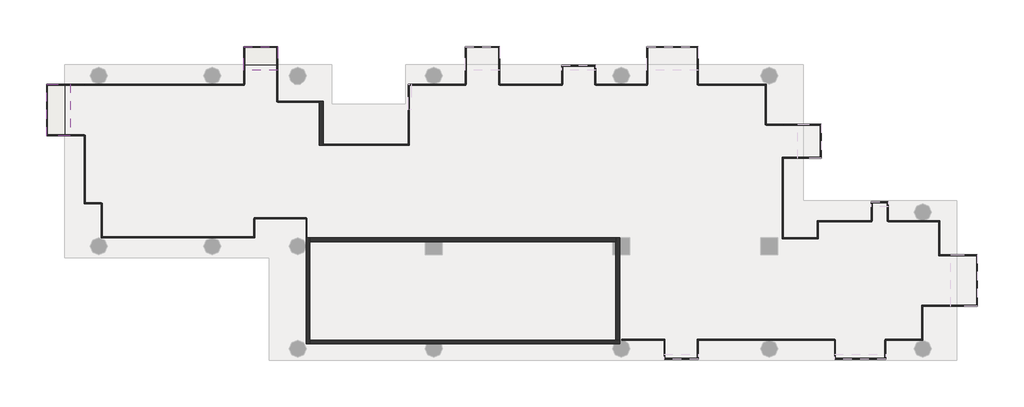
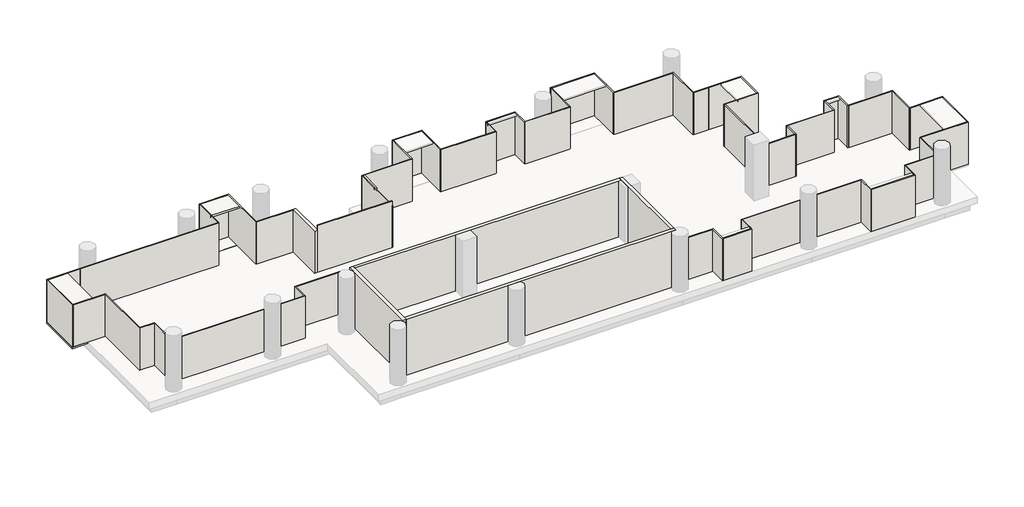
# One storey, part 1 of 2: 62 walls, 4 slabs.
"""IFC4 building model written with IfcOpenShell, lengths in millimetres."""

import ifcopenshell
import ifcopenshell.guid

model = None  # the IFC model being written
_history = None  # IfcOwnerHistory: only IFC2X3 demands one
_inside = {}  # id of a spatial element -> (the spatial element, [elements in it])
_under = {}  # id of a project, library or spatial element -> (it, [spatial elements below it])
_declared = {}  # id of a project -> (the project, [libraries it declares])
_typed = {}  # id of a type object -> (the type object, [elements of that type])
_made_of = {}  # id of a material, layer set ... -> (it, [elements and type objects made of it])


def new_model(schema):
    """Start an empty IFC model of exactly this schema.

    Asked for "IFC4X3", IfcOpenShell would pick the latest addendum, in which some entities
    have other attributes; the version numbers below select the first issue.
    IFC2X3 requires an IfcOwnerHistory on every rooted entity: one is made here for all.
    """
    global model, _history
    if schema == "IFC4X3":
        model = ifcopenshell.file(schema_version=(4, 3, 0, 0))
    else:
        model = ifcopenshell.file(schema=schema)
    _inside.clear()
    _under.clear()
    _declared.clear()
    _typed.clear()
    _made_of.clear()
    _history = None
    if model.schema == "IFC2X3":
        org = make("IfcOrganization", Name="unknown")
        user = make(
            "IfcPersonAndOrganization",
            ThePerson=make("IfcPerson", FamilyName="unknown"),
            TheOrganization=org,
        )
        app = make(
            "IfcApplication",
            ApplicationDeveloper=org,
            Version="unknown",
            ApplicationFullName="unknown",
            ApplicationIdentifier="unknown",
        )
        _history = make(
            "IfcOwnerHistory",
            OwningUser=user,
            OwningApplication=app,
            ChangeAction="ADDED",
            CreationDate=0,
        )
    return model


def make(cls, **values):
    """One entity of the class cls with the attributes given. An attribute that is None is left unset."""
    return model.create_entity(
        cls, **{name: value for name, value in values.items() if value is not None}
    )


def rooted(cls, **values):
    """An entity with a GlobalId (a new one), such as an element, a storey or a relation."""
    return make(cls, GlobalId=ifcopenshell.guid.new(), OwnerHistory=_history, **values)


def si_unit(unit_type, name, prefix=None):
    """IfcSIUnit, for example si_unit("LENGTHUNIT", "METRE", prefix="MILLI")."""
    return make("IfcSIUnit", UnitType=unit_type, Prefix=prefix, Name=name)


def assignment(units):
    """IfcUnitAssignment: the units of a project."""
    return None if units is None else make("IfcUnitAssignment", Units=units)


def point(xyz):
    """IfcCartesianPoint."""
    return None if xyz is None else make("IfcCartesianPoint", Coordinates=xyz)


def direction(xyz):
    """IfcDirection."""
    return None if xyz is None else make("IfcDirection", DirectionRatios=xyz)


def frame(location, z_axis=None, x_axis=None):
    """IfcAxis2Placement3D, a coordinate frame: its origin and axes. An axis left out is left unset."""
    return make(
        "IfcAxis2Placement3D",
        Location=point(location),
        Axis=direction(z_axis),
        RefDirection=direction(x_axis),
    )


def origin():
    """The frame at (0, 0, 0) with its axes left unset."""
    return frame((0.0, 0.0, 0.0))


def place(relative_to, where):
    """IfcLocalPlacement: puts the frame where relative to a parent placement (None: the world)."""
    return make(
        "IfcLocalPlacement", PlacementRelTo=relative_to, RelativePlacement=where
    )


def context(
    kind, dimensions, precision=None, world=None, true_north=None, identifier=None
):
    """IfcGeometricRepresentationContext, for example the 3D "Model" context."""
    return make(
        "IfcGeometricRepresentationContext",
        ContextIdentifier=identifier,
        ContextType=kind,
        CoordinateSpaceDimension=dimensions,
        Precision=precision,
        WorldCoordinateSystem=world,
        TrueNorth=true_north,
    )


def project(units=None, contexts=None):
    """IfcProject with its units and contexts."""
    return rooted(
        "IfcProject",
        Name="project",
        RepresentationContexts=contexts,
        UnitsInContext=assignment(units),
    )


def spatial(cls, under=None, at=None, **own):
    """A site, building, storey or space (cls), placed at a placement, below another one or the project."""
    s = rooted(cls, ObjectPlacement=at, **own)
    if under is not None:
        _under.setdefault(under.id(), (under, []))[1].append(s)
    return s


def polyline(points):
    """IfcPolyline through the points."""
    return make("IfcPolyline", Points=[point(p) for p in points])


def outline(outer, holes=None, kind="AREA"):
    """IfcArbitraryClosedProfileDef: a profile drawn as a closed curve; with holes, ...WithVoids."""
    if holes is None:
        return make("IfcArbitraryClosedProfileDef", ProfileType=kind, OuterCurve=outer)
    return make(
        "IfcArbitraryProfileDefWithVoids",
        ProfileType=kind,
        OuterCurve=outer,
        InnerCurves=holes,
    )


def extrude(swept, where, along, depth):
    """IfcExtrudedAreaSolid: the profile swept, set in the frame where, extruded along a direction by depth."""
    return make(
        "IfcExtrudedAreaSolid",
        SweptArea=swept,
        Position=where,
        ExtrudedDirection=direction(along),
        Depth=depth,
    )


def faces_of(points, faces, orient=None, outer=None):
    """IfcFace entities. A face is a list of loops; a loop is a list of indices into points, from 0.

    orient and outer hold one flag for each loop. By default every Orientation is true, the
    first loop of a face is its IfcFaceOuterBound and the others are IfcFaceBound.
    """
    made = []
    for i, loops in enumerate(faces):
        bounds = []
        for j, loop in enumerate(loops):
            is_outer = j == 0 if outer is None else outer[i][j]
            bounds.append(
                make(
                    "IfcFaceOuterBound" if is_outer else "IfcFaceBound",
                    Bound=make("IfcPolyLoop", Polygon=[points[k] for k in loop]),
                    Orientation=True if orient is None else orient[i][j],
                )
            )
        made.append(make("IfcFace", Bounds=bounds))
    return made


def faceted_brep(points, faces, orient=None, outer=None, voids=None):
    """IfcFacetedBrep: a solid bounded by flat faces; with voids (closed shells), ...WithVoids."""
    shared = [point(p) for p in points]
    hull = make("IfcClosedShell", CfsFaces=faces_of(shared, faces, orient, outer))
    if voids is None:
        return make("IfcFacetedBrep", Outer=hull)
    return make(
        "IfcFacetedBrepWithVoids",
        Outer=hull,
        Voids=[
            make(cls, CfsFaces=faces_of(shared, fs, o, b)) for cls, fs, o, b in voids
        ],
    )


def shape(context_of_items, identifier, shape_type, items):
    """IfcShapeRepresentation: the items that make up one representation, for example the "Body"."""
    return make(
        "IfcShapeRepresentation",
        ContextOfItems=context_of_items,
        RepresentationIdentifier=identifier,
        RepresentationType=shape_type,
        Items=items,
    )


def made_of(thing, what):
    """Note that an element or type object is made of a material, layer set ...; save() writes the relation."""
    if what is not None:
        _made_of.setdefault(what.id(), (what, []))[1].append(thing)
    return thing


def element(
    cls,
    number,
    at=None,
    inside=None,
    cuts=None,
    type_object=None,
    material=None,
    context=None,
    identifier="Body",
    shape_type=None,
    held_by="IfcProductDefinitionShape",
    body=None,
    shapes=None,
    **own,
):
    """One element of the class cls, such as IfcWall. Its Tag is "e" and its number.

    at: its placement. inside: the storey or other place that contains it. cuts: it is an
    opening in that element (IfcRelVoidsElement). A single representation is given by context,
    identifier, shape_type and body (its items); several are given by shapes. held_by: the class
    of the entity that holds the representations. save() writes the other relations.
    """
    e = rooted(cls, Tag="e%d" % number, ObjectPlacement=at, **own)
    if body is not None:
        shapes = [shape(context, identifier, shape_type, body)]
    if shapes is not None:
        e.Representation = make(held_by, Representations=shapes)
    if inside is not None:
        _inside.setdefault(inside.id(), (inside, []))[1].append(e)
    if cuts is not None:
        rooted(
            "IfcRelVoidsElement", RelatingBuildingElement=cuts, RelatedOpeningElement=e
        )
    if type_object is not None:
        _typed.setdefault(type_object.id(), (type_object, []))[1].append(e)
    return made_of(e, material)


def aggregate(whole, parts):
    """IfcRelAggregates: a whole, such as a stair, and the parts it consists of."""
    return rooted("IfcRelAggregates", RelatingObject=whole, RelatedObjects=parts)


def save(model, path):
    """Write the relations noted so far, then the file.

    IfcRelAggregates (storeys below a building ...), IfcRelContainedInSpatialStructure (elements
    in a storey), IfcRelDefinesByType, IfcRelAssociatesMaterial and IfcRelDeclares: one each for
    every whole, place, type object, material and project.
    """
    for whole, parts in _under.values():
        aggregate(whole, parts)
    for where, things in _inside.values():
        rooted(
            "IfcRelContainedInSpatialStructure",
            RelatedElements=things,
            RelatingStructure=where,
        )
    for kind, things in _typed.values():
        rooted("IfcRelDefinesByType", RelatedObjects=things, RelatingType=kind)
    for what, things in _made_of.values():
        rooted("IfcRelAssociatesMaterial", RelatedObjects=things, RelatingMaterial=what)
    for by, libraries in _declared.values():
        rooted("IfcRelDeclares", RelatingContext=by, RelatedDefinitions=libraries)
    model.write(path)


model = new_model("IFC4")

# Units and contexts
model_context = context("Model", 3, world=origin())
ifc_project = project(units=[si_unit("LENGTHUNIT", "METRE", prefix="MILLI")], contexts=[model_context])

# Site, building, storey
site = spatial("IfcSite", under=ifc_project)
building = spatial("IfcBuilding", under=site)
storey = spatial("IfcBuildingStorey", under=building, Name="TW-L 05", Elevation=17199.9999686)

# Slabs
placement = place(None, origin())
element("IfcSlab", 1, ObjectType="AJN-ARC-SLAB-10cm", at=placement, inside=storey, context=model_context, shape_type="SweptSolid", body=[
    extrude(outline(polyline([(111550.0, 39900.0), (109750.0, 39900.0), (109750.0, 40850.0), (111550.0, 40850.0), (111550.0, 39900.0)])), frame((0.0, 0.0, 17099.9999686), z_axis=(0.0, 0.0, 1.0), x_axis=(1.0, 0.0, 0.0)), (0.0, 0.0, 1.0), 100.0),
])
element("IfcSlab", 2, ObjectType="AJN-ARC-SLAB-10cm", at=placement, inside=storey, context=model_context, shape_type="SweptSolid", body=[
    extrude(outline(polyline([(100300.0, 36150.001152), (99347.1743518, 36150.001152), (99347.1743518, 38850.001152), (100300.0, 38850.001152), (100300.0, 36150.001152)])), frame((0.0, 0.0, 17099.9999686), z_axis=(0.0, 0.0, 1.0), x_axis=(1.0, 0.0, 0.0)), (0.0, 0.0, 1.0), 100.0),
])
element("IfcSlab", 3, ObjectType="AJN-ARC-SLAB-10cm", at=placement, inside=storey, context=model_context, shape_type="SweptSolid", body=[
    extrude(outline(polyline([(111550.0, 39600.0), (109750.0, 39600.0), (109750.0, 40850.0), (111550.0, 40850.0), (111550.0, 39600.0)])), frame((0.0, 0.0, 19799.9999686), z_axis=(0.0, 0.0, 1.0), x_axis=(1.0, 0.0, 0.0)), (0.0, 0.0, 1.0), 100.0),
])
element("IfcSlab", 4, ObjectType="AJN-ARC-SLAB-10cm", at=placement, inside=storey, context=model_context, shape_type="SweptSolid", body=[
    extrude(outline(polyline([(100600.0, 36150.001152), (99347.1743518, 36150.001152), (99347.1743518, 38850.001152), (100600.0, 38850.001152), (100600.0, 36150.001152)])), frame((0.0, 0.0, 19799.9999686), z_axis=(0.0, 0.0, 1.0), x_axis=(1.0, 0.0, 0.0)), (0.0, 0.0, 1.0), 100.0),
])

# Walls
element("IfcWall", 5, ObjectType="AJN-ARC-CONCRETE WALL-20cm", at=placement, inside=storey, context=model_context, shape_type="Brep", body=[
    faceted_brep([(113050.0, 30750.0, 20799.9999686), (113050.0, 30750.0, 17199.9999686), (113050.0, 25150.0, 17199.9999686), (113050.0, 25150.0, 20799.9999686), (113250.0, 30750.0, 17199.9999686), (113250.0, 30750.0, 20799.9999686), (113250.0, 30550.0, 20799.9999686), (113250.0, 25350.0, 20799.9999686), (113250.0, 25150.0, 20799.9999686), (113250.0, 25150.0, 17199.9999686), (113250.0, 25350.0, 17199.9999686), (113250.0, 30550.0, 17199.9999686), (113097.1743518, 30750.0, 17199.9999686)], [[[0, 1, 2, 3]], [[4, 5, 6, 7, 8, 9, 10, 11]], [[2, 1, 12, 4, 11, 10, 9]], [[0, 3, 8, 7, 6, 5]], [[3, 2, 9, 8]], [[0, 5, 4, 12, 1]]]),
])
element("IfcWall", 6, ObjectType="AJN-ARC-CONCRETE WALL-20cm", at=placement, inside=storey, context=model_context, shape_type="Brep", body=[
    faceted_brep([(113250.0, 25150.0, 17199.9999686), (119425.8342613, 25150.0, 17199.9999686), (120174.1657387, 25150.0, 17199.9999686), (129325.8342613, 25150.0, 17199.9999686), (129600.0, 25150.0, 17199.9999686), (129600.0, 25150.0, 20799.9999686), (129325.8342613, 25150.0, 20799.9999686), (120174.1657387, 25150.0, 20799.9999686), (119425.8342613, 25150.0, 20799.9999686), (113250.0, 25150.0, 20799.9999686), (113250.0, 25350.0, 17199.9999686), (113250.0, 25350.0, 20799.9999686), (129400.0, 25350.0, 20799.9999686), (129600.0, 25350.0, 20799.9999686), (129600.0, 25350.0, 17199.9999686), (129400.0, 25350.0, 17199.9999686), (129600.0, 25338.7482194, 17199.9999686), (129600.0, 25338.7482194, 20799.9999686)], [[[0, 1, 2, 3, 4, 5, 6, 7, 8, 9]], [[10, 11, 12, 13, 14, 15]], [[4, 3, 2, 1, 0, 10, 15, 14, 16]], [[9, 8, 7, 6, 5, 17, 13, 12, 11]], [[5, 4, 16, 14, 13, 17]], [[0, 9, 11, 10]]]),
])
element("IfcWall", 7, ObjectType="AJN-ARC-CONCRETE WALL-20cm", at=placement, inside=storey, context=model_context, shape_type="Brep", body=[
    faceted_brep([(129600.0, 25350.0, 17199.9999686), (129600.0, 29850.0, 17199.9999686), (129600.0, 30750.0, 17199.9999686), (129600.0, 30750.0, 20799.9999686), (129600.0, 29850.0, 20799.9999686), (129600.0, 25350.0, 20799.9999686), (129400.0, 25350.0, 17199.9999686), (129400.0, 25350.0, 20799.9999686), (129400.0, 29850.0, 20799.9999686), (129400.0, 30550.0, 20799.9999686), (129400.0, 30750.0, 20799.9999686), (129400.0, 30750.0, 17199.9999686), (129400.0, 30550.0, 17199.9999686), (129400.0, 29850.0, 17199.9999686)], [[[0, 1, 2, 3, 4, 5]], [[6, 7, 8, 9, 10, 11, 12, 13]], [[2, 1, 0, 6, 13, 12, 11]], [[5, 4, 3, 10, 9, 8, 7]], [[3, 2, 11, 10]], [[0, 5, 7, 6]]]),
])
element("IfcWall", 8, ObjectType="AJN-ARC-CONCRETE WALL-20cm", at=placement, inside=storey, context=model_context, shape_type="Brep", body=[
    faceted_brep([(129400.0, 30750.0, 17199.9999686), (113250.0, 30750.0, 17199.9999686), (113250.0, 30750.0, 20799.9999686), (129400.0, 30750.0, 20799.9999686), (129400.0, 30550.0, 17199.9999686), (129400.0, 30550.0, 20799.9999686), (129250.0, 30550.0, 20799.9999686), (120250.0, 30550.0, 20799.9999686), (119350.0, 30550.0, 20799.9999686), (113250.0, 30550.0, 20799.9999686), (113250.0, 30550.0, 17199.9999686), (119350.0, 30550.0, 17199.9999686), (120250.0, 30550.0, 17199.9999686), (129250.0, 30550.0, 17199.9999686)], [[[0, 1, 2, 3]], [[4, 5, 6, 7, 8, 9, 10, 11, 12, 13]], [[1, 0, 4, 13, 12, 11, 10]], [[3, 2, 9, 8, 7, 6, 5]], [[0, 3, 5, 4]], [[1, 10, 9, 2]]]),
])
element("IfcWall", 9, ObjectType="AJN-ARC-CONCRETE WALL-20cm", at=placement, inside=storey, context=model_context, shape_type="Brep", body=[
    faceted_brep([(113950.0, 35650.0, 17199.9999686), (113950.0, 37950.0, 17199.9999686), (113950.0, 37950.0, 19899.9999686), (113950.0, 35650.0, 19899.9999686), (113750.0, 35650.0, 17199.9999686), (113750.0, 35650.0, 19899.9999686), (113750.0, 37900.0, 19899.9999686), (113750.0, 37950.0, 19899.9999686), (113750.0, 37950.0, 17199.9999686), (113750.0, 37900.0, 17199.9999686)], [[[0, 1, 2, 3]], [[4, 5, 6, 7, 8, 9]], [[1, 0, 4, 9, 8]], [[3, 2, 7, 6, 5]], [[0, 3, 5, 4]], [[2, 1, 8, 7]]]),
])
element("IfcWall", 10, ObjectType="AJN-ARC-GLASS-50mm", at=placement, inside=storey, context=model_context, shape_type="SweptSolid", body=[
    extrude(outline(polyline([(111550.0, 37950.0), (113750.0, 37950.0), (113750.0, 37900.0), (111550.0, 37900.0), (111550.0, 37950.0)])), frame((0.0, 0.0, 17199.9999686), z_axis=(0.0, 0.0, 1.0), x_axis=(1.0, 0.0, 0.0)), (0.0, 0.0, 1.0), 2700.0),
])
element("IfcWall", 11, ObjectType="AJN-ARC-GLASS-50mm", at=placement, inside=storey, context=model_context, shape_type="Brep", body=[
    faceted_brep([(111550.0, 37925.0, 17199.9999686), (111550.0, 40850.0, 17199.9999686), (111550.0, 40850.0, 19899.9999686), (111550.0, 37925.0, 19899.9999686), (111500.0, 37925.0, 17199.9999686), (111500.0, 37925.0, 19899.9999686), (111500.0, 40800.0, 19899.9999686), (111500.0, 40850.0, 19899.9999686), (111500.0, 40850.0, 17199.9999686), (111500.0, 40800.0, 17199.9999686)], [[[0, 1, 2, 3]], [[4, 5, 6, 7, 8, 9]], [[1, 0, 4, 9, 8]], [[3, 2, 7, 6, 5]], [[0, 3, 5, 4]], [[2, 1, 8, 7]]]),
])
element("IfcWall", 12, ObjectType="AJN-ARC-GLASS-50mm", at=placement, inside=storey, context=model_context, shape_type="Brep", body=[
    faceted_brep([(111500.0, 40850.0, 17199.9999686), (109750.0, 40850.0, 17199.9999686), (109750.0, 40850.0, 19899.9999686), (111500.0, 40850.0, 19899.9999686), (111500.0, 40800.0, 17199.9999686), (111500.0, 40800.0, 19899.9999686), (109800.0, 40800.0, 19899.9999686), (109750.0, 40800.0, 19899.9999686), (109750.0, 40800.0, 17199.9999686), (109800.0, 40800.0, 17199.9999686)], [[[0, 1, 2, 3]], [[4, 5, 6, 7, 8, 9]], [[1, 0, 4, 9, 8]], [[3, 2, 7, 6, 5]], [[2, 1, 8, 7]], [[0, 3, 5, 4]]]),
])
element("IfcWall", 13, ObjectType="AJN-ARC-GLASS-50mm", at=placement, inside=storey, context=model_context, shape_type="SweptSolid", body=[
    extrude(outline(polyline([(109750.0, 38850.0), (109750.0, 40800.0), (109800.0, 40800.0), (109800.0, 38850.0), (109750.0, 38850.0)])), frame((0.0, 0.0, 17199.9999686), z_axis=(0.0, 0.0, 1.0), x_axis=(1.0, 0.0, 0.0)), (0.0, 0.0, 1.0), 2700.0),
])
element("IfcWall", 14, ObjectType="AJN-ARC-GLASS-50mm", at=placement, inside=storey, context=model_context, shape_type="SweptSolid", body=[
    extrude(outline(polyline([(101347.1743536, 38850.001152), (109775.0000034, 38849.9999966), (109774.9999966, 38799.9999966), (101347.1743467, 38800.001152), (101347.1743536, 38850.001152)])), frame((0.0, 0.0, 17199.9999686), z_axis=(0.0, 0.0, 1.0), x_axis=(1.0, 0.0, 0.0)), (0.0, 0.0, 1.0), 2700.0),
])
element("IfcWall", 15, ObjectType="AJN-ARC-GLASS-50mm", at=placement, inside=storey, context=model_context, shape_type="Brep", body=[
    faceted_brep([(101347.1743501, 38850.001152, 17199.9999686), (99347.1743518, 38850.001152, 17199.9999686), (99347.1743518, 38850.001152, 19899.9999686), (101347.1743501, 38850.001152, 19899.9999686), (101347.1743501, 38800.001152, 17199.9999686), (101347.1743501, 38800.001152, 19899.9999686), (99397.1743518, 38800.001152, 19899.9999686), (99347.1743518, 38800.001152, 19899.9999686), (99347.1743518, 38800.001152, 17199.9999686), (99397.1743518, 38800.001152, 17199.9999686)], [[[0, 1, 2, 3]], [[4, 5, 6, 7, 8, 9]], [[1, 0, 4, 9, 8]], [[3, 2, 7, 6, 5]], [[0, 3, 5, 4]], [[2, 1, 8, 7]]]),
])
element("IfcWall", 16, ObjectType="AJN-ARC-GLASS-50mm", at=placement, inside=storey, context=model_context, shape_type="Brep", body=[
    faceted_brep([(99347.1743518, 38800.001152, 17199.9999686), (99347.1743518, 36150.001152, 17199.9999686), (99347.1743518, 36150.001152, 19899.9999686), (99347.1743518, 38800.001152, 19899.9999686), (99397.1743518, 38800.001152, 17199.9999686), (99397.1743518, 38800.001152, 19899.9999686), (99397.1743518, 36200.001152, 19899.9999686), (99397.1743518, 36150.001152, 19899.9999686), (99397.1743518, 36150.001152, 17199.9999686), (99397.1743518, 36200.001152, 17199.9999686)], [[[0, 1, 2, 3]], [[4, 5, 6, 7, 8, 9]], [[1, 0, 4, 9, 8]], [[3, 2, 7, 6, 5]], [[2, 1, 8, 7]], [[0, 3, 5, 4]]]),
])
element("IfcWall", 17, ObjectType="AJN-ARC-GLASS-50mm", at=placement, inside=storey, context=model_context, shape_type="SweptSolid", body=[
    extrude(outline(polyline([(101347.1743518, 36150.001152), (99397.1743518, 36150.001152), (99397.1743518, 36200.001152), (101347.1743518, 36200.001152), (101347.1743518, 36150.001152)])), frame((0.0, 0.0, 17199.9999686), z_axis=(0.0, 0.0, 1.0), x_axis=(1.0, 0.0, 0.0)), (0.0, 0.0, 1.0), 2700.0),
])
element("IfcWall", 18, ObjectType="AJN-ARC-GLASS-50mm", at=placement, inside=storey, context=model_context, shape_type="Brep", body=[
    faceted_brep([(101347.1743518, 36175.001152, 17199.9999686), (101347.1743518, 32550.0, 17199.9999686), (101347.1743518, 32550.0, 19899.9999686), (101347.1743518, 36175.001152, 19899.9999686), (101397.1743518, 36175.001152, 17199.9999686), (101397.1743518, 36175.001152, 19899.9999686), (101397.1743518, 32600.0, 19899.9999686), (101397.1743518, 32550.0, 19899.9999686), (101397.1743518, 32550.0, 17199.9999686), (101397.1743518, 32600.0, 17199.9999686)], [[[0, 1, 2, 3]], [[4, 5, 6, 7, 8, 9]], [[1, 0, 4, 9, 8]], [[3, 2, 7, 6, 5]], [[0, 3, 5, 4]], [[2, 1, 8, 7]]]),
])
element("IfcWall", 19, ObjectType="AJN-ARC-GLASS-50mm", at=placement, inside=storey, context=model_context, shape_type="SweptSolid", body=[
    extrude(outline(polyline([(102247.1743518, 32550.0), (101397.1743518, 32550.0), (101397.1743518, 32600.0), (102247.1743518, 32600.0), (102247.1743518, 32550.0)])), frame((0.0, 0.0, 17199.9999686), z_axis=(0.0, 0.0, 1.0), x_axis=(1.0, 0.0, 0.0)), (0.0, 0.0, 1.0), 2700.0),
])
element("IfcWall", 20, ObjectType="AJN-ARC-GLASS-50mm", at=placement, inside=storey, context=model_context, shape_type="Brep", body=[
    faceted_brep([(102247.1743518, 32575.0, 17199.9999686), (102247.1743518, 30750.0, 17199.9999686), (102247.1743518, 30750.0, 19899.9999686), (102247.1743518, 32575.0, 19899.9999686), (102297.1743518, 32575.0, 17199.9999686), (102297.1743518, 32575.0, 19899.9999686), (102297.1743518, 30800.0, 19899.9999686), (102297.1743518, 30750.0, 19899.9999686), (102297.1743518, 30750.0, 17199.9999686), (102297.1743518, 30800.0, 17199.9999686)], [[[0, 1, 2, 3]], [[4, 5, 6, 7, 8, 9]], [[1, 0, 4, 9, 8]], [[3, 2, 7, 6, 5]], [[0, 3, 5, 4]], [[2, 1, 8, 7]]]),
])
element("IfcWall", 21, ObjectType="AJN-ARC-GLASS-50mm", at=placement, inside=storey, context=model_context, shape_type="Brep", body=[
    faceted_brep([(102297.1743518, 30750.0, 17199.9999686), (110347.1743518, 30750.0, 17199.9999686), (110347.1743518, 30750.0, 19899.9999686), (102297.1743518, 30750.0, 19899.9999686), (102297.1743518, 30800.0, 17199.9999686), (102297.1743518, 30800.0, 19899.9999686), (110297.1743518, 30800.0, 19899.9999686), (110347.1743518, 30800.0, 19899.9999686), (110347.1743518, 30800.0, 17199.9999686), (110297.1743518, 30800.0, 17199.9999686)], [[[0, 1, 2, 3]], [[4, 5, 6, 7, 8, 9]], [[1, 0, 4, 9, 8]], [[3, 2, 7, 6, 5]], [[2, 1, 8, 7]], [[0, 3, 5, 4]]]),
])
element("IfcWall", 22, ObjectType="AJN-ARC-GLASS-50mm", at=placement, inside=storey, context=model_context, shape_type="SweptSolid", body=[
    extrude(outline(polyline([(110347.1743518, 31750.0), (110347.1743518, 30800.0), (110297.1743518, 30800.0), (110297.1743518, 31750.0), (110347.1743518, 31750.0)])), frame((0.0, 0.0, 17199.9999686), z_axis=(0.0, 0.0, 1.0), x_axis=(1.0, 0.0, 0.0)), (0.0, 0.0, 1.0), 2700.0),
])
element("IfcWall", 23, ObjectType="AJN-ARC-GLASS-50mm", at=placement, inside=storey, context=model_context, shape_type="SweptSolid", body=[
    extrude(outline(polyline([(113047.1743518, 31750.0), (110322.1743518, 31750.0), (110322.1743518, 31800.0), (113047.1743518, 31800.0), (113047.1743518, 31750.0)])), frame((0.0, 0.0, 17199.9999686), z_axis=(0.0, 0.0, 1.0), x_axis=(1.0, 0.0, 0.0)), (0.0, 0.0, 1.0), 2700.0),
])
element("IfcWall", 24, ObjectType="AJN-ARC-GLASS-50mm", at=placement, inside=storey, context=model_context, shape_type="Brep", body=[
    faceted_brep([(113047.1743518, 31775.0, 17199.9999686), (113047.1743518, 30750.0, 17199.9999686), (113047.1743518, 30750.0, 19899.9999686), (113047.1743518, 31775.0, 19899.9999686), (113097.1743518, 31775.0, 17199.9999686), (113097.1743518, 31775.0, 19899.9999686), (113097.1743518, 30750.0, 19899.9999686), (113097.1743518, 30750.0, 17199.9999686), (113050.0, 30750.0, 17199.9999686)], [[[0, 1, 2, 3]], [[4, 5, 6, 7]], [[1, 0, 4, 7, 8]], [[3, 2, 6, 5]], [[0, 3, 5, 4]], [[2, 1, 8, 7, 6]]]),
])
element("IfcWall", 25, ObjectType="AJN-ARC-GLASS-50mm", at=placement, inside=storey, context=model_context, shape_type="Brep", body=[
    faceted_brep([(138250.0, 30700.0, 17199.9999686), (138250.0, 30750.0, 17199.9999686), (138250.0, 34950.0, 17199.9999686), (138250.0, 34950.0, 19899.9999686), (138250.0, 30750.0, 19899.9999686), (138250.0, 30700.0, 19899.9999686), (138200.0, 30700.0, 17199.9999686), (138200.0, 30700.0, 19899.9999686), (138200.0, 34950.0, 19899.9999686), (138200.0, 34950.0, 17199.9999686)], [[[0, 1, 2, 3, 4, 5]], [[6, 7, 8, 9]], [[2, 1, 0, 6, 9]], [[5, 4, 3, 8, 7]], [[0, 5, 7, 6]], [[3, 2, 9, 8]]]),
])
element("IfcWall", 26, ObjectType="AJN-ARC-GLASS-50mm", at=placement, inside=storey, context=model_context, shape_type="Brep", body=[
    faceted_brep([(138200.0, 34950.0, 17199.9999686), (138250.0, 34950.0, 17199.9999686), (140250.0, 34950.0, 17199.9999686), (140250.0, 34950.0, 19899.9999686), (138250.0, 34950.0, 19899.9999686), (138200.0, 34950.0, 19899.9999686), (138200.0, 35000.0, 17199.9999686), (138200.0, 35000.0, 19899.9999686), (140200.0, 35000.0, 19899.9999686), (140250.0, 35000.0, 19899.9999686), (140250.0, 35000.0, 17199.9999686), (140200.0, 35000.0, 17199.9999686)], [[[0, 1, 2, 3, 4, 5]], [[6, 7, 8, 9, 10, 11]], [[2, 1, 0, 6, 11, 10]], [[5, 4, 3, 9, 8, 7]], [[3, 2, 10, 9]], [[0, 5, 7, 6]]]),
])
element("IfcWall", 27, ObjectType="AJN-ARC-GLASS-50mm", at=placement, inside=storey, context=model_context, shape_type="Brep", body=[
    faceted_brep([(140250.0, 35000.0, 17199.9999686), (140250.0, 36750.0, 17199.9999686), (140250.0, 36750.0, 19899.9999686), (140250.0, 35000.0, 19899.9999686), (140200.0, 35000.0, 17199.9999686), (140200.0, 35000.0, 19899.9999686), (140200.0, 36700.0, 19899.9999686), (140200.0, 36750.0, 19899.9999686), (140200.0, 36750.0, 17199.9999686), (140200.0, 36700.0, 17199.9999686)], [[[0, 1, 2, 3]], [[4, 5, 6, 7, 8, 9]], [[1, 0, 4, 9, 8]], [[3, 2, 7, 6, 5]], [[2, 1, 8, 7]], [[0, 3, 5, 4]]]),
])
element("IfcWall", 28, ObjectType="AJN-ARC-GLASS-50mm", at=placement, inside=storey, context=model_context, shape_type="SweptSolid", body=[
    extrude(outline(polyline([(138250.0, 36750.0), (140200.0, 36750.0), (140200.0, 36700.0), (138250.0, 36700.0), (138250.0, 36750.0)])), frame((0.0, 0.0, 17199.9999686), z_axis=(0.0, 0.0, 1.0), x_axis=(1.0, 0.0, 0.0)), (0.0, 0.0, 1.0), 2700.0),
])
element("IfcWall", 29, ObjectType="AJN-ARC-GLASS-50mm", at=placement, inside=storey, context=model_context, shape_type="SweptSolid", body=[
    extrude(outline(polyline([(137350.0, 36750.0), (138250.0, 36750.0), (138250.0, 36700.0), (137350.0, 36700.0), (137350.0, 36750.0)])), frame((0.0, 0.0, 17199.9999686), z_axis=(0.0, 0.0, 1.0), x_axis=(1.0, 0.0, 0.0)), (0.0, 0.0, 1.0), 2700.0),
])
element("IfcWall", 30, ObjectType="AJN-ARC-GLASS-50mm", at=placement, inside=storey, context=model_context, shape_type="Brep", body=[
    faceted_brep([(137350.0, 36725.0, 17199.9999686), (137350.0, 38850.0, 17199.9999686), (137350.0, 38850.0, 19899.9999686), (137350.0, 36725.0, 19899.9999686), (137300.0, 36725.0, 17199.9999686), (137300.0, 36725.0, 19899.9999686), (137300.0, 38800.0, 19899.9999686), (137300.0, 38850.0, 19899.9999686), (137300.0, 38850.0, 17199.9999686), (137300.0, 38800.0, 17199.9999686)], [[[0, 1, 2, 3]], [[4, 5, 6, 7, 8, 9]], [[1, 0, 4, 9, 8]], [[3, 2, 7, 6, 5]], [[0, 3, 5, 4]], [[2, 1, 8, 7]]]),
])
element("IfcWall", 31, ObjectType="AJN-ARC-GLASS-50mm", at=placement, inside=storey, context=model_context, shape_type="SweptSolid", body=[
    extrude(outline(polyline([(133750.0, 38850.0), (137300.0, 38850.0), (137300.0, 38800.0), (133750.0, 38800.0), (133750.0, 38850.0)])), frame((0.0, 0.0, 17199.9999686), z_axis=(0.0, 0.0, 1.0), x_axis=(1.0, 0.0, 0.0)), (0.0, 0.0, 1.0), 2700.0),
])
element("IfcWall", 32, ObjectType="AJN-ARC-GLASS-50mm", at=placement, inside=storey, context=model_context, shape_type="Brep", body=[
    faceted_brep([(133750.0, 38825.0, 17199.9999686), (133750.0, 40850.0, 17199.9999686), (133750.0, 40850.0, 19899.9999686), (133750.0, 38825.0, 19899.9999686), (133700.0, 38825.0, 17199.9999686), (133700.0, 38825.0, 19899.9999686), (133700.0, 40800.0, 19899.9999686), (133700.0, 40850.0, 19899.9999686), (133700.0, 40850.0, 17199.9999686), (133700.0, 40800.0, 17199.9999686)], [[[0, 1, 2, 3]], [[4, 5, 6, 7, 8, 9]], [[1, 0, 4, 9, 8]], [[3, 2, 7, 6, 5]], [[0, 3, 5, 4]], [[2, 1, 8, 7]]]),
])
element("IfcWall", 33, ObjectType="AJN-ARC-GLASS-50mm", at=placement, inside=storey, context=model_context, shape_type="Brep", body=[
    faceted_brep([(133700.0, 40850.0, 17199.9999686), (131050.0, 40850.0, 17199.9999686), (131050.0, 40850.0, 19899.9999686), (133700.0, 40850.0, 19899.9999686), (133700.0, 40800.0, 17199.9999686), (133700.0, 40800.0, 19899.9999686), (131100.0, 40800.0, 19899.9999686), (131050.0, 40800.0, 19899.9999686), (131050.0, 40800.0, 17199.9999686), (131100.0, 40800.0, 17199.9999686)], [[[0, 1, 2, 3]], [[4, 5, 6, 7, 8, 9]], [[1, 0, 4, 9, 8]], [[3, 2, 7, 6, 5]], [[2, 1, 8, 7]], [[0, 3, 5, 4]]]),
])
element("IfcWall", 34, ObjectType="AJN-ARC-GLASS-50mm", at=placement, inside=storey, context=model_context, shape_type="SweptSolid", body=[
    extrude(outline(polyline([(131050.0, 38850.0), (131050.0, 40800.0), (131100.0, 40800.0), (131100.0, 38850.0), (131050.0, 38850.0)])), frame((0.0, 0.0, 17199.9999686), z_axis=(0.0, 0.0, 1.0), x_axis=(1.0, 0.0, 0.0)), (0.0, 0.0, 1.0), 2700.0),
])
element("IfcWall", 35, ObjectType="AJN-ARC-GLASS-50mm", at=placement, inside=storey, context=model_context, shape_type="SweptSolid", body=[
    extrude(outline(polyline([(128350.0, 38850.0), (131075.0, 38850.0), (131075.0, 38800.0), (128350.0, 38800.0), (128350.0, 38850.0)])), frame((0.0, 0.0, 17199.9999686), z_axis=(0.0, 0.0, 1.0), x_axis=(1.0, 0.0, 0.0)), (0.0, 0.0, 1.0), 2700.0),
])
element("IfcWall", 36, ObjectType="AJN-ARC-GLASS-50mm", at=placement, inside=storey, context=model_context, shape_type="Brep", body=[
    faceted_brep([(128350.0, 38825.0, 17199.9999686), (128350.0, 39850.0, 17199.9999686), (128350.0, 39850.0, 19899.9999686), (128350.0, 38825.0, 19899.9999686), (128300.0, 38825.0, 17199.9999686), (128300.0, 38825.0, 19899.9999686), (128300.0, 39800.0, 19899.9999686), (128300.0, 39850.0, 19899.9999686), (128300.0, 39850.0, 17199.9999686), (128300.0, 39800.0, 17199.9999686)], [[[0, 1, 2, 3]], [[4, 5, 6, 7, 8, 9]], [[1, 0, 4, 9, 8]], [[3, 2, 7, 6, 5]], [[0, 3, 5, 4]], [[2, 1, 8, 7]]]),
])
element("IfcWall", 37, ObjectType="AJN-ARC-GLASS-50mm", at=placement, inside=storey, context=model_context, shape_type="Brep", body=[
    faceted_brep([(128300.0, 39850.0, 17199.9999686), (126550.0, 39850.0, 17199.9999686), (126550.0, 39850.0, 19899.9999686), (128300.0, 39850.0, 19899.9999686), (128300.0, 39800.0, 17199.9999686), (128300.0, 39800.0, 19899.9999686), (126600.0, 39800.0, 19899.9999686), (126550.0, 39800.0, 19899.9999686), (126550.0, 39800.0, 17199.9999686), (126600.0, 39800.0, 17199.9999686)], [[[0, 1, 2, 3]], [[4, 5, 6, 7, 8, 9]], [[1, 0, 4, 9, 8]], [[3, 2, 7, 6, 5]], [[2, 1, 8, 7]], [[0, 3, 5, 4]]]),
])
element("IfcWall", 38, ObjectType="AJN-ARC-GLASS-50mm", at=placement, inside=storey, context=model_context, shape_type="SweptSolid", body=[
    extrude(outline(polyline([(126550.0, 38850.0), (126550.0, 39800.0), (126600.0, 39800.0), (126600.0, 38850.0), (126550.0, 38850.0)])), frame((0.0, 0.0, 17199.9999686), z_axis=(0.0, 0.0, 1.0), x_axis=(1.0, 0.0, 0.0)), (0.0, 0.0, 1.0), 2700.0),
])
element("IfcWall", 39, ObjectType="AJN-ARC-GLASS-50mm", at=placement, inside=storey, context=model_context, shape_type="SweptSolid", body=[
    extrude(outline(polyline([(123263.0639015, 38850.0), (126575.0, 38850.0), (126575.0, 38800.0), (123263.0639015, 38800.0), (123263.0639015, 38850.0)])), frame((0.0, 0.0, 17199.9999686), z_axis=(0.0, 0.0, 1.0), x_axis=(1.0, 0.0, 0.0)), (0.0, 0.0, 1.0), 2700.0),
])
element("IfcWall", 40, ObjectType="AJN-ARC-GLASS-50mm", at=placement, inside=storey, context=model_context, shape_type="Brep", body=[
    faceted_brep([(123263.0639015, 38825.0, 17199.9999686), (123263.0639015, 40850.0, 17199.9999686), (123263.0639015, 40850.0, 19899.9999686), (123263.0639015, 38825.0, 19899.9999686), (123213.0639015, 38825.0, 17199.9999686), (123213.0639015, 38825.0, 19899.9999686), (123213.0639015, 40800.0, 19899.9999686), (123213.0639015, 40850.0, 19899.9999686), (123213.0639015, 40850.0, 17199.9999686), (123213.0639015, 40800.0, 17199.9999686)], [[[0, 1, 2, 3]], [[4, 5, 6, 7, 8, 9]], [[1, 0, 4, 9, 8]], [[3, 2, 7, 6, 5]], [[0, 3, 5, 4]], [[2, 1, 8, 7]]]),
])
element("IfcWall", 41, ObjectType="AJN-ARC-GLASS-50mm", at=placement, inside=storey, context=model_context, shape_type="Brep", body=[
    faceted_brep([(123213.0639015, 40850.0, 17199.9999686), (121463.0639015, 40850.0, 17199.9999686), (121463.0639015, 40850.0, 19899.9999686), (123213.0639015, 40850.0, 19899.9999686), (123213.0639015, 40800.0, 17199.9999686), (123213.0639015, 40800.0, 19899.9999686), (121513.0639015, 40800.0, 19899.9999686), (121463.0639015, 40800.0, 19899.9999686), (121463.0639015, 40800.0, 17199.9999686), (121513.0639015, 40800.0, 17199.9999686)], [[[0, 1, 2, 3]], [[4, 5, 6, 7, 8, 9]], [[1, 0, 4, 9, 8]], [[3, 2, 7, 6, 5]], [[2, 1, 8, 7]], [[0, 3, 5, 4]]]),
])
element("IfcWall", 42, ObjectType="AJN-ARC-GLASS-50mm", at=placement, inside=storey, context=model_context, shape_type="SweptSolid", body=[
    extrude(outline(polyline([(121463.0639015, 38850.0), (121463.0639015, 40800.0), (121513.0639015, 40800.0), (121513.0639015, 38850.0), (121463.0639015, 38850.0)])), frame((0.0, 0.0, 17199.9999686), z_axis=(0.0, 0.0, 1.0), x_axis=(1.0, 0.0, 0.0)), (0.0, 0.0, 1.0), 2700.0),
])
element("IfcWall", 43, ObjectType="AJN-ARC-GLASS-50mm", at=placement, inside=storey, context=model_context, shape_type="Brep", body=[
    faceted_brep([(121488.0639015, 38850.0, 17199.9999686), (118450.0, 38850.0, 17199.9999686), (118450.0, 38850.0, 19899.9999686), (121488.0639015, 38850.0, 19899.9999686), (121488.0639015, 38800.0, 17199.9999686), (121488.0639015, 38800.0, 19899.9999686), (118500.0, 38800.0, 19899.9999686), (118450.0, 38800.0, 19899.9999686), (118450.0, 38800.0, 17199.9999686), (118500.0, 38800.0, 17199.9999686)], [[[0, 1, 2, 3]], [[4, 5, 6, 7, 8, 9]], [[1, 0, 4, 9, 8]], [[3, 2, 7, 6, 5]], [[0, 3, 5, 4]], [[2, 1, 8, 7]]]),
])
element("IfcWall", 44, ObjectType="AJN-ARC-GLASS-50mm", at=placement, inside=storey, context=model_context, shape_type="SweptSolid", body=[
    extrude(outline(polyline([(131950.3417807, 25350.0), (129714.068817, 25350.0), (129714.068817, 25400.0), (131950.3417807, 25400.0), (131950.3417807, 25350.0)])), frame((0.0, 0.0, 17199.9999686), z_axis=(0.0, 0.0, 1.0), x_axis=(1.0, 0.0, 0.0)), (0.0, 0.0, 1.0), 2700.0),
])
element("IfcWall", 45, ObjectType="AJN-ARC-GLASS-50mm", at=placement, inside=storey, context=model_context, shape_type="Brep", body=[
    faceted_brep([(131950.3417807, 25400.0, 17199.9999686), (131950.3417807, 25350.0, 17199.9999686), (131950.3417807, 24350.0, 17199.9999686), (131950.3417807, 24350.0, 19899.9999686), (131950.3417807, 25350.0, 19899.9999686), (131950.3417807, 25400.0, 19899.9999686), (132000.3417807, 25400.0, 17199.9999686), (132000.3417807, 25400.0, 19899.9999686), (132000.3417807, 24400.0, 19899.9999686), (132000.3417807, 24350.0, 19899.9999686), (132000.3417807, 24350.0, 17199.9999686), (132000.3417807, 24400.0, 17199.9999686)], [[[0, 1, 2, 3, 4, 5]], [[6, 7, 8, 9, 10, 11]], [[2, 1, 0, 6, 11, 10]], [[5, 4, 3, 9, 8, 7]], [[3, 2, 10, 9]], [[0, 5, 7, 6]]]),
])
element("IfcWall", 46, ObjectType="AJN-ARC-GLASS-50mm", at=placement, inside=storey, context=model_context, shape_type="Brep", body=[
    faceted_brep([(132000.3417807, 24350.0, 17199.9999686), (133750.3417807, 24350.0, 17199.9999686), (133750.3417807, 24350.0, 19899.9999686), (132000.3417807, 24350.0, 19899.9999686), (132000.3417807, 24400.0, 17199.9999686), (132000.3417807, 24400.0, 19899.9999686), (133700.3417807, 24400.0, 19899.9999686), (133750.3417807, 24400.0, 19899.9999686), (133750.3417807, 24400.0, 17199.9999686), (133700.3417807, 24400.0, 17199.9999686)], [[[0, 1, 2, 3]], [[4, 5, 6, 7, 8, 9]], [[1, 0, 4, 9, 8]], [[3, 2, 7, 6, 5]], [[2, 1, 8, 7]], [[0, 3, 5, 4]]]),
])
element("IfcWall", 47, ObjectType="AJN-ARC-GLASS-50mm", at=placement, inside=storey, context=model_context, shape_type="SweptSolid", body=[
    extrude(outline(polyline([(133750.3417807, 25350.0), (133750.3417807, 24400.0), (133700.3417807, 24400.0), (133700.3417807, 25350.0), (133750.3417807, 25350.0)])), frame((0.0, 0.0, 17199.9999686), z_axis=(0.0, 0.0, 1.0), x_axis=(1.0, 0.0, 0.0)), (0.0, 0.0, 1.0), 2700.0),
])
element("IfcWall", 48, ObjectType="AJN-ARC-GLASS-50mm", at=placement, inside=storey, context=model_context, shape_type="Brep", body=[
    faceted_brep([(133700.3417807, 25350.0, 17199.9999686), (133750.3417807, 25350.0, 17199.9999686), (140950.0711147, 25350.0, 17199.9999686), (140950.0711147, 25350.0, 19899.9999686), (133750.3417807, 25350.0, 19899.9999686), (133700.3417807, 25350.0, 19899.9999686), (133700.3417807, 25400.0, 17199.9999686), (133700.3417807, 25400.0, 19899.9999686), (140950.0711147, 25400.0, 19899.9999686), (140950.0711147, 25400.0, 17199.9999686)], [[[0, 1, 2, 3, 4, 5]], [[6, 7, 8, 9]], [[2, 1, 0, 6, 9]], [[3, 2, 9, 8]], [[5, 4, 3, 8, 7]], [[0, 5, 7, 6]]]),
])
element("IfcWall", 49, ObjectType="AJN-ARC-GLASS-50mm", at=placement, inside=storey, context=model_context, shape_type="Brep", body=[
    faceted_brep([(140950.0711147, 25375.0, 17199.9999686), (140950.0711147, 24350.0, 17199.9999686), (140950.0711147, 24350.0, 19899.9999686), (140950.0711147, 25375.0, 19899.9999686), (141000.0711147, 25375.0, 17199.9999686), (141000.0711147, 25375.0, 19899.9999686), (141000.0711147, 24400.0, 19899.9999686), (141000.0711147, 24350.0, 19899.9999686), (141000.0711147, 24350.0, 17199.9999686), (141000.0711147, 24400.0, 17199.9999686)], [[[0, 1, 2, 3]], [[4, 5, 6, 7, 8, 9]], [[1, 0, 4, 9, 8]], [[3, 2, 7, 6, 5]], [[0, 3, 5, 4]], [[2, 1, 8, 7]]]),
])
element("IfcWall", 50, ObjectType="AJN-ARC-GLASS-50mm", at=placement, inside=storey, context=model_context, shape_type="Brep", body=[
    faceted_brep([(141000.0711147, 24350.0, 17199.9999686), (143650.0711147, 24350.0, 17199.9999686), (143650.0711147, 24350.0, 19899.9999686), (141000.0711147, 24350.0, 19899.9999686), (141000.0711147, 24400.0, 17199.9999686), (141000.0711147, 24400.0, 19899.9999686), (143600.0711147, 24400.0, 19899.9999686), (143650.0711147, 24400.0, 19899.9999686), (143650.0711147, 24400.0, 17199.9999686), (143600.0711147, 24400.0, 17199.9999686)], [[[0, 1, 2, 3]], [[4, 5, 6, 7, 8, 9]], [[1, 0, 4, 9, 8]], [[3, 2, 7, 6, 5]], [[2, 1, 8, 7]], [[0, 3, 5, 4]]]),
])
element("IfcWall", 51, ObjectType="AJN-ARC-GLASS-50mm", at=placement, inside=storey, context=model_context, shape_type="SweptSolid", body=[
    extrude(outline(polyline([(143650.0711147, 25350.0), (143650.0711147, 24400.0), (143600.0711147, 24400.0), (143600.0711147, 25350.0), (143650.0711147, 25350.0)])), frame((0.0, 0.0, 17199.9999686), z_axis=(0.0, 0.0, 1.0), x_axis=(1.0, 0.0, 0.0)), (0.0, 0.0, 1.0), 2700.0),
])
element("IfcWall", 52, ObjectType="AJN-ARC-GLASS-50mm", at=placement, inside=storey, context=model_context, shape_type="Brep", body=[
    faceted_brep([(143625.0711147, 25350.0, 17199.9999686), (145613.2302513, 25350.0, 17199.9999686), (145613.2302513, 25350.0, 19899.9999686), (143625.0711147, 25350.0, 19899.9999686), (143625.0711147, 25400.0, 17199.9999686), (143625.0711147, 25400.0, 19899.9999686), (145563.2302513, 25400.0, 19899.9999686), (145613.2302513, 25400.0, 19899.9999686), (145613.2302513, 25400.0, 17199.9999686), (145563.2302513, 25400.0, 17199.9999686)], [[[0, 1, 2, 3]], [[4, 5, 6, 7, 8, 9]], [[1, 0, 4, 9, 8]], [[3, 2, 7, 6, 5]], [[0, 3, 5, 4]], [[2, 1, 8, 7]]]),
])
element("IfcWall", 53, ObjectType="AJN-ARC-GLASS-50mm", at=placement, inside=storey, context=model_context, shape_type="Brep", body=[
    faceted_brep([(145613.2302513, 25400.0, 17199.9999686), (145613.2302513, 27150.7949131, 17199.9999686), (145613.2302513, 27200.7949131, 17199.9999686), (145613.2302513, 27200.7949131, 19899.9999686), (145613.2302513, 27150.7949131, 19899.9999686), (145613.2302513, 25400.0, 19899.9999686), (145563.2302513, 25400.0, 17199.9999686), (145563.2302513, 25400.0, 19899.9999686), (145563.2302513, 27200.7949131, 19899.9999686), (145563.2302513, 27200.7949131, 17199.9999686)], [[[0, 1, 2, 3, 4, 5]], [[6, 7, 8, 9]], [[2, 1, 0, 6, 9]], [[5, 4, 3, 8, 7]], [[0, 5, 7, 6]], [[3, 2, 9, 8]]]),
])
element("IfcWall", 54, ObjectType="AJN-ARC-GLASS-50mm", at=placement, inside=storey, context=model_context, shape_type="Brep", body=[
    faceted_brep([(145613.2302513, 27150.7949131, 17199.9999686), (148497.681474, 27150.7949131, 17199.9999686), (148497.681474, 27150.7949131, 19899.9999686), (145613.2302513, 27150.7949131, 19899.9999686), (145613.2302513, 27200.7949131, 17199.9999686), (145613.2302513, 27200.7949131, 19899.9999686), (148447.681474, 27200.7949131, 19899.9999686), (148497.681474, 27200.7949131, 19899.9999686), (148497.681474, 27200.7949131, 17199.9999686), (148447.681474, 27200.7949131, 17199.9999686)], [[[0, 1, 2, 3]], [[4, 5, 6, 7, 8, 9]], [[1, 0, 4, 9, 8]], [[3, 2, 7, 6, 5]], [[2, 1, 8, 7]], [[0, 3, 5, 4]]]),
])
element("IfcWall", 55, ObjectType="AJN-ARC-GLASS-50mm", at=placement, inside=storey, context=model_context, shape_type="Brep", body=[
    faceted_brep([(148497.681474, 27200.7949131, 17199.9999686), (148497.681474, 29850.7949131, 17199.9999686), (148497.681474, 29850.7949131, 19899.9999686), (148497.681474, 27200.7949131, 19899.9999686), (148447.681474, 27200.7949131, 17199.9999686), (148447.681474, 27200.7949131, 19899.9999686), (148447.681474, 29800.7949131, 19899.9999686), (148447.681474, 29850.7949131, 19899.9999686), (148447.681474, 29850.7949131, 17199.9999686), (148447.681474, 29800.7949131, 17199.9999686)], [[[0, 1, 2, 3]], [[4, 5, 6, 7, 8, 9]], [[1, 0, 4, 9, 8]], [[3, 2, 7, 6, 5]], [[2, 1, 8, 7]], [[0, 3, 5, 4]]]),
])
element("IfcWall", 56, ObjectType="AJN-ARC-GLASS-50mm", at=placement, inside=storey, context=model_context, shape_type="SweptSolid", body=[
    extrude(outline(polyline([(146497.681474, 29850.7949131), (148447.681474, 29850.7949131), (148447.681474, 29800.7949131), (146497.681474, 29800.7949131), (146497.681474, 29850.7949131)])), frame((0.0, 0.0, 17199.9999686), z_axis=(0.0, 0.0, 1.0), x_axis=(1.0, 0.0, 0.0)), (0.0, 0.0, 1.0), 2700.0),
])
element("IfcWall", 57, ObjectType="AJN-ARC-GLASS-50mm", at=placement, inside=storey, context=model_context, shape_type="Brep", body=[
    faceted_brep([(146497.681474, 29800.7949131, 17199.9999686), (146497.681474, 29850.7949131, 17199.9999686), (146497.681474, 31651.6593424, 17199.9999686), (146497.681474, 31651.6593424, 19899.9999686), (146497.681474, 29850.7949131, 19899.9999686), (146497.681474, 29800.7949131, 19899.9999686), (146447.681474, 29800.7949131, 17199.9999686), (146447.681474, 29800.7949131, 19899.9999686), (146447.681474, 31601.6593424, 19899.9999686), (146447.681474, 31651.6593424, 19899.9999686), (146447.681474, 31651.6593424, 17199.9999686), (146447.681474, 31601.6593424, 17199.9999686)], [[[0, 1, 2, 3, 4, 5]], [[6, 7, 8, 9, 10, 11]], [[2, 1, 0, 6, 11, 10]], [[5, 4, 3, 9, 8, 7]], [[3, 2, 10, 9]], [[0, 5, 7, 6]]]),
])
element("IfcWall", 58, ObjectType="AJN-ARC-GLASS-50mm", at=placement, inside=storey, context=model_context, shape_type="Brep", body=[
    faceted_brep([(146447.681474, 31651.6593424, 17199.9999686), (145638.6089983, 31651.6593424, 17199.9999686), (145561.3910017, 31651.6593424, 17199.9999686), (143797.755292, 31651.6593424, 17199.9999686), (143797.755292, 31651.6593424, 19899.9999686), (145561.3910017, 31651.6593424, 19899.9999686), (145638.6089983, 31651.6593424, 19899.9999686), (146447.681474, 31651.6593424, 19899.9999686), (146447.681474, 31601.6593424, 17199.9999686), (146447.681474, 31601.6593424, 19899.9999686), (143797.755292, 31601.6593424, 19899.9999686), (143797.755292, 31601.6593424, 17199.9999686)], [[[0, 1, 2, 3, 4, 5, 6, 7]], [[8, 9, 10, 11]], [[3, 2, 1, 0, 8, 11]], [[4, 3, 11, 10]], [[7, 6, 5, 4, 10, 9]], [[0, 7, 9, 8]]]),
])
element("IfcWall", 59, ObjectType="AJN-ARC-GLASS-50mm", at=placement, inside=storey, context=model_context, shape_type="Brep", body=[
    faceted_brep([(143797.755292, 31626.6593424, 17199.9999686), (143797.755292, 32651.6593424, 17199.9999686), (143797.755292, 32651.6593424, 19899.9999686), (143797.755292, 31626.6593424, 19899.9999686), (143747.755292, 31626.6593424, 17199.9999686), (143747.755292, 31626.6593424, 19899.9999686), (143747.755292, 32601.6593424, 19899.9999686), (143747.755292, 32651.6593424, 19899.9999686), (143747.755292, 32651.6593424, 17199.9999686), (143747.755292, 32601.6593424, 17199.9999686)], [[[0, 1, 2, 3]], [[4, 5, 6, 7, 8, 9]], [[1, 0, 4, 9, 8]], [[3, 2, 7, 6, 5]], [[0, 3, 5, 4]], [[2, 1, 8, 7]]]),
])
element("IfcWall", 60, ObjectType="AJN-ARC-GLASS-50mm", at=placement, inside=storey, context=model_context, shape_type="Brep", body=[
    faceted_brep([(143747.755292, 32651.6593424, 17199.9999686), (142897.755292, 32651.6593424, 17199.9999686), (142897.755292, 32651.6593424, 19899.9999686), (143747.755292, 32651.6593424, 19899.9999686), (143747.755292, 32601.6593424, 17199.9999686), (143747.755292, 32601.6593424, 19899.9999686), (142947.755292, 32601.6593424, 19899.9999686), (142897.755292, 32601.6593424, 19899.9999686), (142897.755292, 32601.6593424, 17199.9999686), (142947.755292, 32601.6593424, 17199.9999686)], [[[0, 1, 2, 3]], [[4, 5, 6, 7, 8, 9]], [[1, 0, 4, 9, 8]], [[3, 2, 7, 6, 5]], [[2, 1, 8, 7]], [[0, 3, 5, 4]]]),
])
element("IfcWall", 61, ObjectType="AJN-ARC-GLASS-50mm", at=placement, inside=storey, context=model_context, shape_type="SweptSolid", body=[
    extrude(outline(polyline([(142897.755292, 31651.6593424), (142897.755292, 32601.6593424), (142947.755292, 32601.6593424), (142947.755292, 31651.6593424), (142897.755292, 31651.6593424)])), frame((0.0, 0.0, 17199.9999686), z_axis=(0.0, 0.0, 1.0), x_axis=(1.0, 0.0, 0.0)), (0.0, 0.0, 1.0), 2700.0),
])
element("IfcWall", 62, ObjectType="AJN-ARC-GLASS-50mm", at=placement, inside=storey, context=model_context, shape_type="Brep", body=[
    faceted_brep([(142922.755292, 31651.6593424, 17199.9999686), (140050.0, 31651.6593424, 17199.9999686), (140050.0, 31651.6593424, 19899.9999686), (142922.755292, 31651.6593424, 19899.9999686), (142922.755292, 31601.6593424, 17199.9999686), (142922.755292, 31601.6593424, 19899.9999686), (140100.0, 31601.6593424, 19899.9999686), (140050.0, 31601.6593424, 19899.9999686), (140050.0, 31601.6593424, 17199.9999686), (140100.0, 31601.6593424, 17199.9999686)], [[[0, 1, 2, 3]], [[4, 5, 6, 7, 8, 9]], [[1, 0, 4, 9, 8]], [[3, 2, 7, 6, 5]], [[0, 3, 5, 4]], [[2, 1, 8, 7]]]),
])
element("IfcWall", 63, ObjectType="AJN-ARC-GLASS-50mm", at=placement, inside=storey, context=model_context, shape_type="Brep", body=[
    faceted_brep([(140050.0, 31601.6593424, 17199.9999686), (140050.0, 30750.0, 17199.9999686), (140050.0, 30700.0, 17199.9999686), (140050.0, 30700.0, 19899.9999686), (140050.0, 30750.0, 19899.9999686), (140050.0, 31601.6593424, 19899.9999686), (140100.0, 31601.6593424, 17199.9999686), (140100.0, 31601.6593424, 19899.9999686), (140100.0, 30700.0, 19899.9999686), (140100.0, 30700.0, 17199.9999686)], [[[0, 1, 2, 3, 4, 5]], [[6, 7, 8, 9]], [[2, 1, 0, 6, 9]], [[5, 4, 3, 8, 7]], [[0, 5, 7, 6]], [[3, 2, 9, 8]]]),
])
element("IfcWall", 64, ObjectType="AJN-ARC-GLASS-50mm", at=placement, inside=storey, context=model_context, shape_type="SweptSolid", body=[
    extrude(outline(polyline([(138250.0, 30750.0), (140050.0, 30750.0), (140050.0, 30700.0), (138250.0, 30700.0), (138250.0, 30750.0)])), frame((0.0, 0.0, 17199.9999686), z_axis=(0.0, 0.0, 1.0), x_axis=(1.0, 0.0, 0.0)), (0.0, 0.0, 1.0), 2700.0),
])
element("IfcWall", 65, ObjectType="AJN-ARC-GLASS-50mm", at=placement, inside=storey, context=model_context, shape_type="SweptSolid", body=[
    extrude(outline(polyline([(118450.0, 35650.0), (118450.0, 38800.0), (118500.0, 38800.0), (118500.0, 35650.0), (118450.0, 35650.0)])), frame((0.0, 0.0, 17199.9999686), z_axis=(0.0, 0.0, 1.0), x_axis=(1.0, 0.0, 0.0)), (0.0, 0.0, 1.0), 2700.0),
])
element("IfcWall", 66, ObjectType="AJN-ARC-GLASS-50mm", at=placement, inside=storey, context=model_context, shape_type="SweptSolid", body=[
    extrude(outline(polyline([(118450.0, 35650.0), (113950.0, 35650.0), (113950.0, 35700.0), (118450.0, 35700.0), (118450.0, 35650.0)])), frame((0.0, 0.0, 17199.9999686), z_axis=(0.0, 0.0, 1.0), x_axis=(1.0, 0.0, 0.0)), (0.0, 0.0, 1.0), 3000.0),
])

save(model, "model.ifc")
